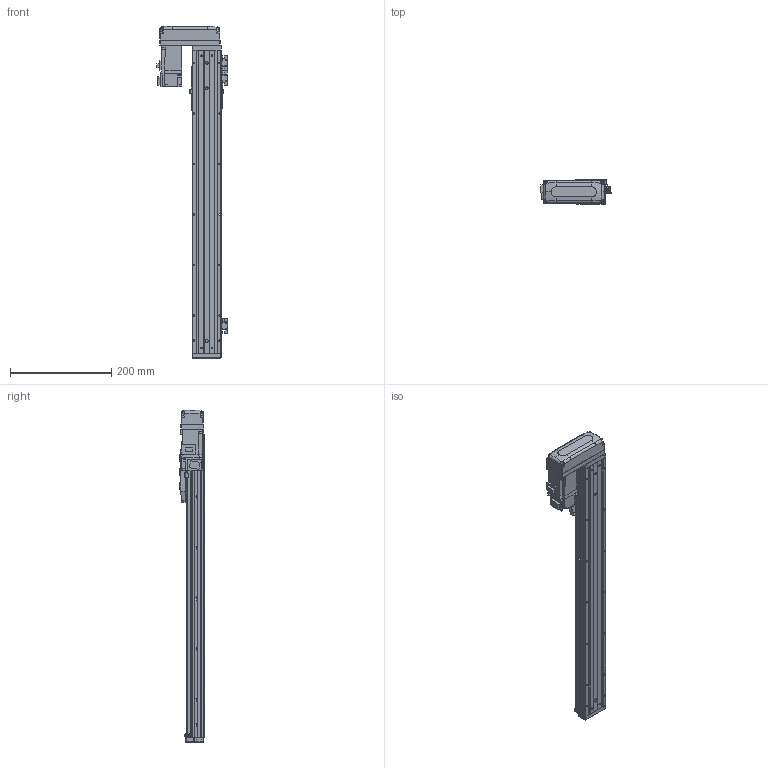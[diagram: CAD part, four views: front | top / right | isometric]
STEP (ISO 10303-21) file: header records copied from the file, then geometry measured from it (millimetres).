
FILE_DESCRIPTION (( 'STEP AP203' ), '1' );
FILE_NAME ('CTHA50-450-BR-M10-C4L.step', '2022-03-19T06:07:10', ( '微软用户' ), ( '微软中国' ), 'SwSTEP 2.0', 'SolidWorks 2020', '' );
FILE_SCHEMA (( 'CONFIG_CONTROL_DESIGN' ));
Length unit declared in the file: millimetre
Products named in the file (20): GBT 70.1-M4×12; GBT 70.3-M3℅6; KTHA50-005; CTHA60-016; CTHA50-015-2_CTHA60-015-2; GB¨uT 70.2-M3¡Á6_M3¡Á6; CTHA60-021; CTHA60-033; EE_SX911P_R; HG-KR13（三菱）; GBT 70.1-M3×15; GBT77-2000 M3×3; CTHA50-002; CTHA50-450-BR-M10-C4L; GBT 70.1-M3℅6; CTHA50-030; KTHA50-001_600; CTHA60-017; CTHA50-031; KTHA50-004
Assembly tree (60 placements, depth 2):
  CTHA50-450-BR-M10-C4L
    KTHA50-001_600
    KTHA50-004
    KTHA50-005
    GB¨uT 70.2-M3¡Á6_M3¡Á6  x10
    EE_SX911P_R  x3
    GBT77-2000 M3×3  x6
    GBT 70.1-M3℅6  x6
    CTHA60-017  x3
    GBT 70.1-M4×12  x10
    CTHA60-016  x2
    CTHA60-021  x2
    HG-KR13（三菱）
    CTHA50-002
    CTHA50-030  x2
    CTHA50-031
    GBT 70.3-M3℅6  x4
    CTHA50-015-2_CTHA60-015-2
    CTHA60-033
    GBT 70.1-M3×15  x4
Bounding box: 139.12 x 48 x 657 mm (x, y, z)
Volume: 1309847.8 mm3; surface area: 336599.1 mm2
Topology: 62 solids, 62 shells, 2533 faces, 6023 edges, 3690 vertices
Faces by surface type: plane 1434, cylinder 588, cone 353, torus 108, bspline 26, sphere 24
Entity records: 43331 total; most frequent: CARTESIAN_POINT 7995, DIRECTION 6755, ORIENTED_EDGE 6554, EDGE_CURVE 3277, VECTOR 2295, LINE 2295, AXIS2_PLACEMENT_3D 2230, VERTEX_POINT 2064
